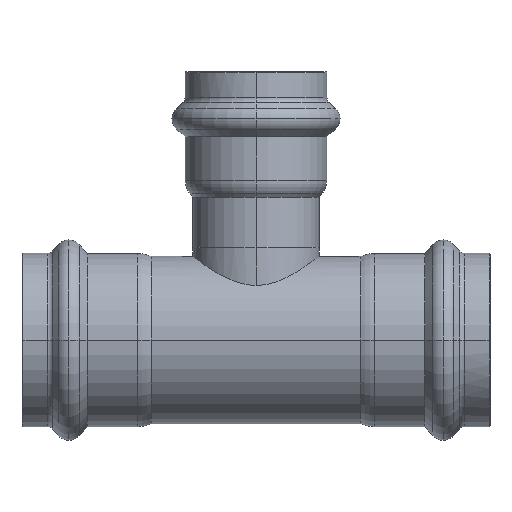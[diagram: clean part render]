
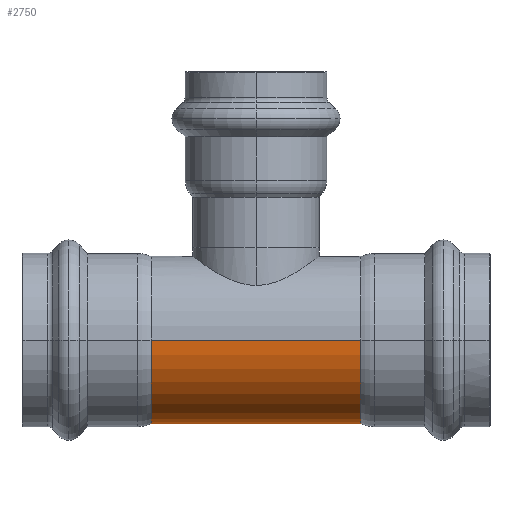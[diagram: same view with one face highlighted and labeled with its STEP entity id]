
A CAD part, left-side view. The second image highlights one B-rep face of the part: STEP entity #2750.
In plain terms, the highlighted cylindrical face has radius 18.5 mm (diameter 37 mm), a partial arc.
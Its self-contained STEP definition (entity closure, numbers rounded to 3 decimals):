
#2190=CARTESIAN_POINT('',(49.506,37.239,0.));
#2200=VERTEX_POINT('',#2190);
#2300=CARTESIAN_POINT('',(12.506,37.239,0.));
#2310=VERTEX_POINT('',#2300);
#2340=CARTESIAN_POINT('',(31.006,37.239,0.));
#2350=DIRECTION('',(0.,1.,0.));
#2360=DIRECTION('',(-1.,0.,0.));
#2370=AXIS2_PLACEMENT_3D('',#2340,#2350,#2360);
#2380=CIRCLE('',#2370,18.5);
#2390=EDGE_CURVE('',#2200,#2310,#2380,.T.);
#2440=CARTESIAN_POINT('',(31.006,14.039,0.));
#2450=DIRECTION('',(0.,1.,0.));
#2460=DIRECTION('',(1.,0.,0.));
#2470=AXIS2_PLACEMENT_3D('',#2440,#2450,#2460);
#2480=CYLINDRICAL_SURFACE('',#2470,18.5);
#2490=CARTESIAN_POINT('',(49.506,14.039,0.));
#2500=DIRECTION('',(0.,1.,0.));
#2510=VECTOR('',#2500,1.);
#2520=LINE('',#2490,#2510);
#2530=CARTESIAN_POINT('',(49.506,-9.161,0.));
#2540=VERTEX_POINT('',#2530);
#2550=EDGE_CURVE('',#2540,#2200,#2520,.T.);
#2560=ORIENTED_EDGE('',*,*,#2550,.F.);
#2570=ORIENTED_EDGE('',*,*,#2390,.F.);
#2580=CARTESIAN_POINT('',(12.506,14.039,
0.));
#2590=DIRECTION('',(0.,1.,0.));
#2600=VECTOR('',#2590,1.);
#2610=LINE('',#2580,#2600);
#2620=CARTESIAN_POINT('',(12.506,-9.161,0.));
#2630=VERTEX_POINT('',#2620);
#2640=EDGE_CURVE('',#2630,#2310,#2610,.T.);
#2650=ORIENTED_EDGE('',*,*,#2640,.T.);
#2660=CARTESIAN_POINT('',(31.006,-9.161,0.));
#2670=DIRECTION('',(0.,1.,0.));
#2680=DIRECTION('',(-1.,0.,0.));
#2690=AXIS2_PLACEMENT_3D('',#2660,#2670,#2680);
#2700=CIRCLE('',#2690,18.5);
#2710=EDGE_CURVE('',#2540,#2630,#2700,.T.);
#2720=ORIENTED_EDGE('',*,*,#2710,.T.);
#2730=EDGE_LOOP('',(#2720,#2650,#2570,#2560));
#2740=FACE_OUTER_BOUND('',#2730,.T.);
#2750=ADVANCED_FACE('',(#2740),#2480,.T.);
